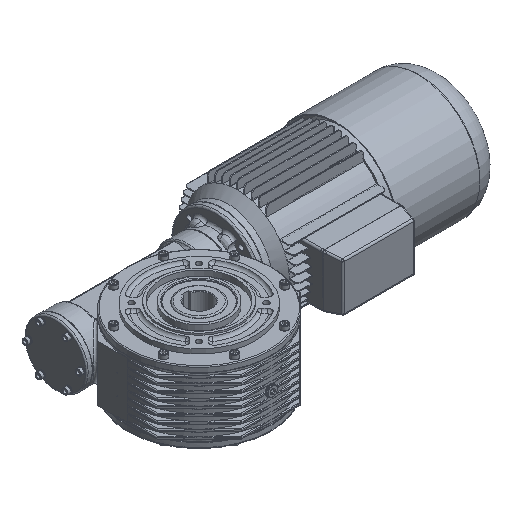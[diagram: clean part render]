
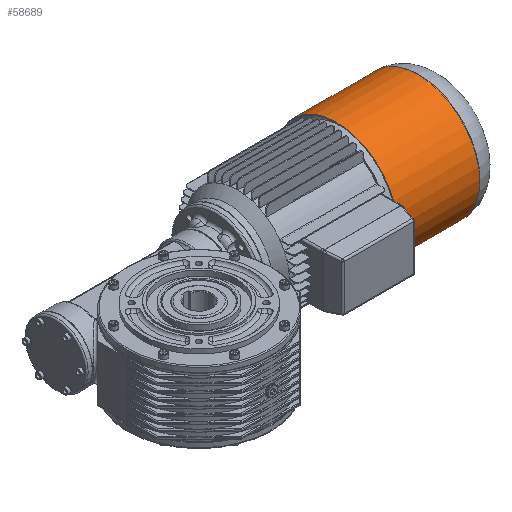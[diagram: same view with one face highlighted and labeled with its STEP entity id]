
A CAD part, isometric view. The second image highlights one B-rep face of the part: STEP entity #58689.
In plain terms, the highlighted cylindrical face has radius 137.5 mm (diameter 275 mm), a full revolution.
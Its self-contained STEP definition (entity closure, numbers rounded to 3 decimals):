
#58546=CARTESIAN_POINT('',(524.0,137.5,0.0));
#58547=VERTEX_POINT('',#58546);
#58548=CARTESIAN_POINT('',(524.0,0.0,0.0));
#58549=DIRECTION('',(1.0,0.0,0.0));
#58550=DIRECTION('',(0.0,1.0,0.0));
#58551=AXIS2_PLACEMENT_3D('',#58548,#58549,#58550);
#58552=CIRCLE('',#58551,137.5);
#58553=EDGE_CURVE('',#58547,#58547,#58552,.T.);
#58663=CARTESIAN_POINT('',(338.0,137.5,0.0));
#58664=VERTEX_POINT('',#58663);
#58665=CARTESIAN_POINT('',(338.0,0.0,0.0));
#58666=DIRECTION('',(1.0,0.0,0.0));
#58667=DIRECTION('',(0.0,1.0,0.0));
#58668=AXIS2_PLACEMENT_3D('',#58665,#58666,#58667);
#58669=CIRCLE('',#58668,137.5);
#58670=EDGE_CURVE('',#58664,#58664,#58669,.T.);
#58678=CARTESIAN_POINT('',(431.0,0.0,0.0));
#58679=DIRECTION('',(1.0,0.0,0.0));
#58680=DIRECTION('',(0.0,1.0,0.0));
#58681=AXIS2_PLACEMENT_3D('',#58678,#58679,#58680);
#58682=CYLINDRICAL_SURFACE('',#58681,137.5);
#58683=ORIENTED_EDGE('',*,*,#58553,.F.);
#58684=EDGE_LOOP('',(#58683));
#58685=FACE_OUTER_BOUND('',#58684,.T.);
#58686=ORIENTED_EDGE('',*,*,#58670,.T.);
#58687=EDGE_LOOP('',(#58686));
#58688=FACE_BOUND('',#58687,.T.);
#58689=ADVANCED_FACE('',(#58685,#58688),#58682,.T.);
